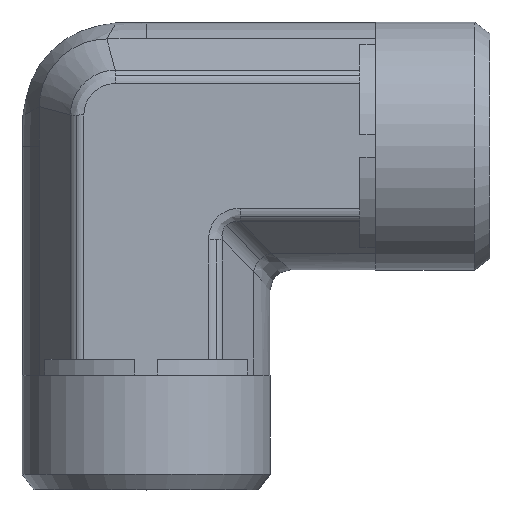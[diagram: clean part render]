
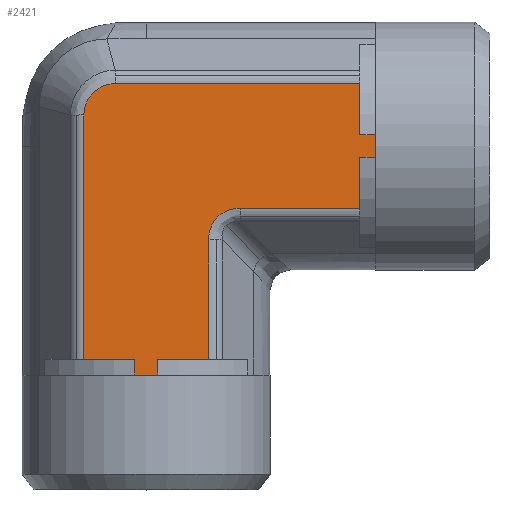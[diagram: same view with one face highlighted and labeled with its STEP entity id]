
A CAD part, top view. The second image highlights one B-rep face of the part: STEP entity #2421.
In plain terms, the highlighted planar face has unit normal (0, 0, 1) as drawn and (0, -1, 0) by its records, which use the part's own axes.
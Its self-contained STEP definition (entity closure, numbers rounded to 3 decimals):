
#361=CARTESIAN_POINT('',(4.521,-11.875,5.99));
#362=VERTEX_POINT('',#361);
#370=CARTESIAN_POINT('',(16.,-11.875,5.99));
#371=VERTEX_POINT('',#370);
#372=CARTESIAN_POINT('',(4.521,-11.875,5.99));
#373=DIRECTION('',(1.0,0.0,0.0));
#374=VECTOR('',#373,11.479);
#375=LINE('',#372,#374);
#376=EDGE_CURVE('',#362,#371,#375,.T.);
#485=CARTESIAN_POINT('',(-10.49,-11.875,-2.973));
#486=VERTEX_POINT('',#485);
#494=CARTESIAN_POINT('',(-10.49,-11.875,20.5));
#495=VERTEX_POINT('',#494);
#496=CARTESIAN_POINT('',(-10.49,-11.875,-2.973));
#497=DIRECTION('',(0.0,0.0,1.0));
#498=VECTOR('',#497,23.473);
#499=LINE('',#496,#498);
#500=EDGE_CURVE('',#486,#495,#499,.T.);
#692=CARTESIAN_POINT('',(17.5,-11.875,0.));
#693=VERTEX_POINT('',#692);
#1867=CARTESIAN_POINT('',(1.49,-11.875,20.5));
#1868=VERTEX_POINT('',#1867);
#1869=CARTESIAN_POINT('',(-3.409,-11.875,20.5));
#1870=VERTEX_POINT('',#1869);
#1871=CARTESIAN_POINT('',(1.49,-11.875,20.5));
#1872=DIRECTION('',(-1.0,0.0,0.0));
#1873=VECTOR('',#1872,4.899);
#1874=LINE('',#1871,#1873);
#1875=EDGE_CURVE('',#1868,#1870,#1874,.T.);
#1926=CARTESIAN_POINT('',(-5.591,-11.875,20.5));
#1927=VERTEX_POINT('',#1926);
#1928=CARTESIAN_POINT('',(-5.591,-11.875,20.5));
#1929=DIRECTION('',(-1.0,0.0,0.0));
#1930=VECTOR('',#1929,4.899);
#1931=LINE('',#1928,#1930);
#1932=EDGE_CURVE('',#1927,#495,#1931,.T.);
#1990=CARTESIAN_POINT('',(-5.591,-11.875,22.0));
#1991=VERTEX_POINT('',#1990);
#1992=CARTESIAN_POINT('',(-5.591,-11.875,22.0));
#1993=DIRECTION('',(0.0,0.0,-1.0));
#1994=VECTOR('',#1993,1.5);
#1995=LINE('',#1992,#1994);
#1996=EDGE_CURVE('',#1991,#1927,#1995,.T.);
#2013=CARTESIAN_POINT('',(-3.409,-11.875,22.0));
#2014=VERTEX_POINT('',#2013);
#2015=CARTESIAN_POINT('',(-3.409,-11.875,20.5));
#2016=DIRECTION('',(0.0,0.0,1.0));
#2017=VECTOR('',#2016,1.5);
#2018=LINE('',#2015,#2017);
#2019=EDGE_CURVE('',#1870,#2014,#2018,.T.);
#2295=CARTESIAN_POINT('',(-4.5,-11.875,22.0));
#2296=VERTEX_POINT('',#2295);
#2297=CARTESIAN_POINT('',(-4.5,-11.875,22.0));
#2298=DIRECTION('',(-1.0,0.0,0.0));
#2299=VECTOR('',#2298,1.091);
#2300=LINE('',#2297,#2299);
#2301=EDGE_CURVE('',#2296,#1991,#2300,.T.);
#2319=CARTESIAN_POINT('',(-4.5,-11.875,-3.175));
#2320=DIRECTION('',(0.0,-1.0,0.0));
#2321=DIRECTION('',(0.0,0.0,-1.0));
#2322=AXIS2_PLACEMENT_3D('',#2319,#2320,#2321);
#2323=PLANE('',#2322);
#2324=ORIENTED_EDGE('',*,*,#1996,.T.);
#2325=ORIENTED_EDGE('',*,*,#1932,.T.);
#2326=ORIENTED_EDGE('',*,*,#500,.F.);
#2327=CARTESIAN_POINT('',(-7.473,-11.875,-5.99));
#2328=VERTEX_POINT('',#2327);
#2329=CARTESIAN_POINT('',(-10.49,-11.875,-2.973));
#2330=CARTESIAN_POINT('',(-10.49,-11.875,-3.17));
#2331=CARTESIAN_POINT('',(-10.471,-11.875,-3.368));
#2332=CARTESIAN_POINT('',(-10.369,-11.875,-3.873));
#2333=CARTESIAN_POINT('',(-10.259,-11.875,-4.171));
#2334=CARTESIAN_POINT('',(-9.855,-11.875,-4.889));
#2335=CARTESIAN_POINT('',(-9.496,-11.875,-5.266));
#2336=CARTESIAN_POINT('',(-8.588,-11.875,-5.831));
#2337=CARTESIAN_POINT('',(-8.031,-11.875,-5.99));
#2338=CARTESIAN_POINT('',(-7.473,-11.875,-5.99));
#2339=B_SPLINE_CURVE_WITH_KNOTS('',3,(#2329,#2330,#2331,#2332,#2333,#2334,#2335,#2336,#2337,#2338),.UNSPECIFIED.,.F.,.U.,(4,2,2,2,4),(-4.713,-4.124,-3.181,-1.673,0.0),.UNSPECIFIED.);
#2340=EDGE_CURVE('',#2328,#486,#2339,.F.);
#2341=ORIENTED_EDGE('',*,*,#2340,.F.);
#2342=CARTESIAN_POINT('',(16.,-11.875,-5.99));
#2343=VERTEX_POINT('',#2342);
#2344=CARTESIAN_POINT('',(16.,-11.875,-5.99));
#2345=DIRECTION('',(-1.0,0.0,0.0));
#2346=VECTOR('',#2345,23.473);
#2347=LINE('',#2344,#2346);
#2348=EDGE_CURVE('',#2343,#2328,#2347,.T.);
#2349=ORIENTED_EDGE('',*,*,#2348,.F.);
#2350=CARTESIAN_POINT('',(16.,-11.875,-1.091));
#2351=VERTEX_POINT('',#2350);
#2352=CARTESIAN_POINT('',(16.,-11.875,-5.99));
#2353=DIRECTION('',(0.0,0.0,1.0));
#2354=VECTOR('',#2353,4.899);
#2355=LINE('',#2352,#2354);
#2356=EDGE_CURVE('',#2343,#2351,#2355,.T.);
#2357=ORIENTED_EDGE('',*,*,#2356,.T.);
#2358=CARTESIAN_POINT('',(17.5,-11.875,-1.091));
#2359=VERTEX_POINT('',#2358);
#2360=CARTESIAN_POINT('',(16.,-11.875,-1.091));
#2361=DIRECTION('',(1.0,0.0,0.0));
#2362=VECTOR('',#2361,1.5);
#2363=LINE('',#2360,#2362);
#2364=EDGE_CURVE('',#2351,#2359,#2363,.T.);
#2365=ORIENTED_EDGE('',*,*,#2364,.T.);
#2366=CARTESIAN_POINT('',(17.5,-11.875,-1.091));
#2367=DIRECTION('',(0.0,0.0,1.0));
#2368=VECTOR('',#2367,1.091);
#2369=LINE('',#2366,#2368);
#2370=EDGE_CURVE('',#2359,#693,#2369,.T.);
#2371=ORIENTED_EDGE('',*,*,#2370,.T.);
#2372=CARTESIAN_POINT('',(17.5,-11.875,1.091));
#2373=VERTEX_POINT('',#2372);
#2374=CARTESIAN_POINT('',(17.5,-11.875,0.));
#2375=DIRECTION('',(0.0,0.0,1.0));
#2376=VECTOR('',#2375,1.091);
#2377=LINE('',#2374,#2376);
#2378=EDGE_CURVE('',#693,#2373,#2377,.T.);
#2379=ORIENTED_EDGE('',*,*,#2378,.T.);
#2380=CARTESIAN_POINT('',(16.,-11.875,1.091));
#2381=VERTEX_POINT('',#2380);
#2382=CARTESIAN_POINT('',(17.5,-11.875,1.091));
#2383=DIRECTION('',(-1.0,0.0,0.0));
#2384=VECTOR('',#2383,1.5);
#2385=LINE('',#2382,#2384);
#2386=EDGE_CURVE('',#2373,#2381,#2385,.T.);
#2387=ORIENTED_EDGE('',*,*,#2386,.T.);
#2388=CARTESIAN_POINT('',(16.,-11.875,1.091));
#2389=DIRECTION('',(0.0,0.0,1.0));
#2390=VECTOR('',#2389,4.899);
#2391=LINE('',#2388,#2390);
#2392=EDGE_CURVE('',#2381,#371,#2391,.T.);
#2393=ORIENTED_EDGE('',*,*,#2392,.T.);
#2394=ORIENTED_EDGE('',*,*,#376,.F.);
#2395=CARTESIAN_POINT('',(1.49,-11.875,9.021));
#2396=VERTEX_POINT('',#2395);
#2397=CARTESIAN_POINT('',(5.531,-11.875,10.031));
#2398=DIRECTION('',(0.,-1.,0.));
#2399=DIRECTION('',(-0.707,0.,-0.707));
#2400=AXIS2_PLACEMENT_3D('',#2397,#2398,#2399);
#2401=ELLIPSE('',#2400,4.518,3.5);
#2402=EDGE_CURVE('',#2396,#362,#2401,.T.);
#2403=ORIENTED_EDGE('',*,*,#2402,.F.);
#2404=CARTESIAN_POINT('',(1.49,-11.875,20.5));
#2405=DIRECTION('',(0.0,0.0,-1.0));
#2406=VECTOR('',#2405,11.479);
#2407=LINE('',#2404,#2406);
#2408=EDGE_CURVE('',#1868,#2396,#2407,.T.);
#2409=ORIENTED_EDGE('',*,*,#2408,.F.);
#2410=ORIENTED_EDGE('',*,*,#1875,.T.);
#2411=ORIENTED_EDGE('',*,*,#2019,.T.);
#2412=CARTESIAN_POINT('',(-3.409,-11.875,22.0));
#2413=DIRECTION('',(-1.0,0.0,0.0));
#2414=VECTOR('',#2413,1.091);
#2415=LINE('',#2412,#2414);
#2416=EDGE_CURVE('',#2014,#2296,#2415,.T.);
#2417=ORIENTED_EDGE('',*,*,#2416,.T.);
#2418=ORIENTED_EDGE('',*,*,#2301,.T.);
#2419=EDGE_LOOP('',(#2324,#2325,#2326,#2341,#2349,#2357,#2365,#2371,#2379,#2387,#2393,#2394,#2403,#2409,#2410,#2411,#2417,#2418));
#2420=FACE_OUTER_BOUND('',#2419,.T.);
#2421=ADVANCED_FACE('',(#2420),#2323,.T.);
